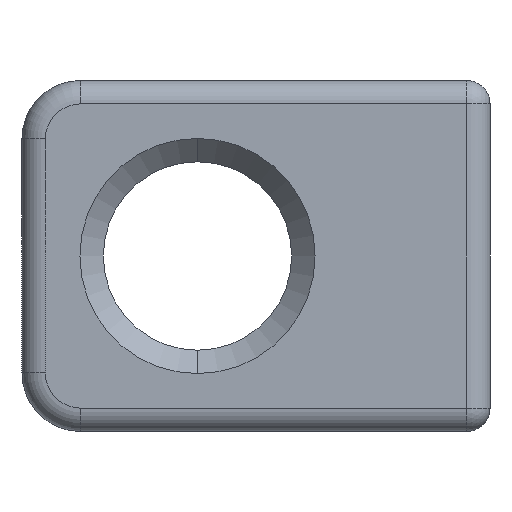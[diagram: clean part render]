
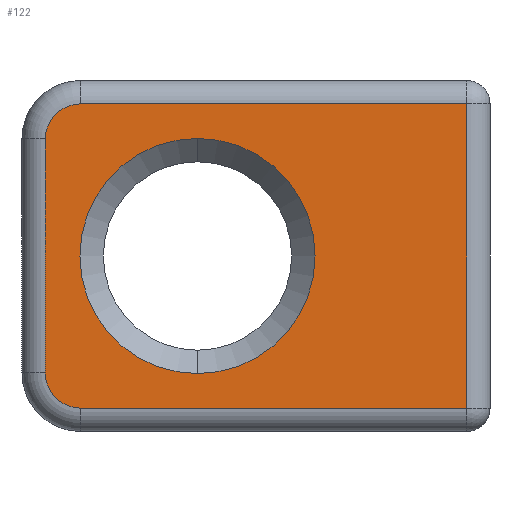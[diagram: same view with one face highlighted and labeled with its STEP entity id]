
A CAD part, left-side view. The second image highlights one B-rep face of the part: STEP entity #122.
In plain terms, the highlighted planar face has unit normal (-1, 0, 0).
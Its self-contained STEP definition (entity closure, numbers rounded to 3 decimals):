
#1 = CARTESIAN_POINT ( 'NONE',  ( 0., 40., 15. ) ) ;
#34 = ORIENTED_EDGE ( 'NONE', *, *, #707, .F. ) ;
#57 = VERTEX_POINT ( 'NONE', #1720 ) ;
#108 = CIRCLE ( 'NONE', #1005, 3. ) ;
#122 = ADVANCED_FACE ( 'NONE', ( #806, #1701 ), #1606, .F. ) ;
#190 = VERTEX_POINT ( 'NONE', #828 ) ;
#357 = CARTESIAN_POINT ( 'NONE',  ( 0., 25., 0. ) ) ;
#376 = ORIENTED_EDGE ( 'NONE', *, *, #887, .T. ) ;
#395 = CARTESIAN_POINT ( 'NONE',  ( 0., 38., 10. ) ) ;
#405 = CARTESIAN_POINT ( 'NONE',  ( 0., 40., 13. ) ) ;
#410 = DIRECTION ( 'NONE',  ( 1., 0., 0. ) ) ;
#411 = CARTESIAN_POINT ( 'NONE',  ( 0., 35., 10. ) ) ;
#424 = LINE ( 'NONE', #662, #665 ) ;
#443 = DIRECTION ( 'NONE',  ( 1., 0., 0. ) ) ;
#477 = VERTEX_POINT ( 'NONE', #1030 ) ;
#500 = DIRECTION ( 'NONE',  ( 0., 1., 0. ) ) ;
#505 = CARTESIAN_POINT ( 'NONE',  ( 0., 35., -10. ) ) ;
#511 = VERTEX_POINT ( 'NONE', #850 ) ;
#529 = CARTESIAN_POINT ( 'NONE',  ( 0., 2., 15. ) ) ;
#550 = DIRECTION ( 'NONE',  ( 0., 1., 0. ) ) ;
#572 = ORIENTED_EDGE ( 'NONE', *, *, #795, .T. ) ;
#574 = VERTEX_POINT ( 'NONE', #1273 ) ;
#634 = CARTESIAN_POINT ( 'NONE',  ( 0., 25., -10.05 ) ) ;
#644 = DIRECTION ( 'NONE',  ( 0., 1., 0. ) ) ;
#662 = CARTESIAN_POINT ( 'NONE',  ( 0., 40., -13. ) ) ;
#665 = VECTOR ( 'NONE', #1582, 1000. ) ;
#694 = EDGE_CURVE ( 'NONE', #1709, #190, #1533, .T. ) ;
#707 = EDGE_CURVE ( 'NONE', #57, #574, #108, .T. ) ;
#731 = AXIS2_PLACEMENT_3D ( 'NONE', #1248, #443, #1379 ) ;
#795 = EDGE_CURVE ( 'NONE', #57, #477, #424, .T. ) ;
#806 = FACE_BOUND ( 'NONE', #1177, .T. ) ;
#825 = EDGE_CURVE ( 'NONE', #477, #511, #1674, .T. ) ;
#828 = CARTESIAN_POINT ( 'NONE',  ( 0., 25., 10.05 ) ) ;
#850 = CARTESIAN_POINT ( 'NONE',  ( 0., 2., 13. ) ) ;
#887 = EDGE_CURVE ( 'NONE', #511, #1322, #1596, .T. ) ;
#920 = AXIS2_PLACEMENT_3D ( 'NONE', #357, #1299, #500 ) ;
#921 = EDGE_CURVE ( 'NONE', #1215, #1322, #1554, .T. ) ;
#954 = CARTESIAN_POINT ( 'NONE',  ( 0., 35., 13. ) ) ;
#960 = EDGE_CURVE ( 'NONE', #1215, #574, #1201, .T. ) ;
#1005 = AXIS2_PLACEMENT_3D ( 'NONE', #505, #1435, #644 ) ;
#1030 = CARTESIAN_POINT ( 'NONE',  ( 0., 2., -13. ) ) ;
#1063 = AXIS2_PLACEMENT_3D ( 'NONE', #411, #1349, #550 ) ;
#1104 = ORIENTED_EDGE ( 'NONE', *, *, #921, .F. ) ;
#1177 = EDGE_LOOP ( 'NONE', ( #1393, #1628 ) ) ;
#1201 = LINE ( 'NONE', #1472, #1509 ) ;
#1209 = DIRECTION ( 'NONE',  ( 0., 1., 0. ) ) ;
#1215 = VERTEX_POINT ( 'NONE', #395 ) ;
#1244 = VECTOR ( 'NONE', #1209, 1000. ) ;
#1248 = CARTESIAN_POINT ( 'NONE',  ( 0., 25., 0. ) ) ;
#1254 = CIRCLE ( 'NONE', #731, 10.05 ) ;
#1273 = CARTESIAN_POINT ( 'NONE',  ( 0., 38., -10. ) ) ;
#1299 = DIRECTION ( 'NONE',  ( 1., 0., 0. ) ) ;
#1322 = VERTEX_POINT ( 'NONE', #954 ) ;
#1338 = ORIENTED_EDGE ( 'NONE', *, *, #825, .T. ) ;
#1347 = DIRECTION ( 'NONE',  ( 0., 1., 0. ) ) ;
#1349 = DIRECTION ( 'NONE',  ( 1., 0., 0. ) ) ;
#1355 = DIRECTION ( 'NONE',  ( 0., 0., -1. ) ) ;
#1379 = DIRECTION ( 'NONE',  ( 0., 1., 0. ) ) ;
#1389 = AXIS2_PLACEMENT_3D ( 'NONE', #1, #410, #1347 ) ;
#1393 = ORIENTED_EDGE ( 'NONE', *, *, #1443, .T. ) ;
#1409 = VECTOR ( 'NONE', #1451, 1000. ) ;
#1435 = DIRECTION ( 'NONE',  ( 1., 0., 0. ) ) ;
#1443 = EDGE_CURVE ( 'NONE', #190, #1709, #1254, .T. ) ;
#1451 = DIRECTION ( 'NONE',  ( 0., 0., 1. ) ) ;
#1472 = CARTESIAN_POINT ( 'NONE',  ( 0., 38., 15. ) ) ;
#1509 = VECTOR ( 'NONE', #1355, 1000. ) ;
#1533 = CIRCLE ( 'NONE', #920, 10.05 ) ;
#1554 = CIRCLE ( 'NONE', #1063, 3. ) ;
#1581 = ORIENTED_EDGE ( 'NONE', *, *, #960, .T. ) ;
#1582 = DIRECTION ( 'NONE',  ( 0., -1., 0. ) ) ;
#1596 = LINE ( 'NONE', #405, #1244 ) ;
#1606 = PLANE ( 'NONE',  #1389 ) ;
#1628 = ORIENTED_EDGE ( 'NONE', *, *, #694, .T. ) ;
#1632 = EDGE_LOOP ( 'NONE', ( #34, #572, #1338, #376, #1104, #1581 ) ) ;
#1674 = LINE ( 'NONE', #529, #1409 ) ;
#1701 = FACE_OUTER_BOUND ( 'NONE', #1632, .T. ) ;
#1709 = VERTEX_POINT ( 'NONE', #634 ) ;
#1720 = CARTESIAN_POINT ( 'NONE',  ( 0., 35., -13. ) ) ;
